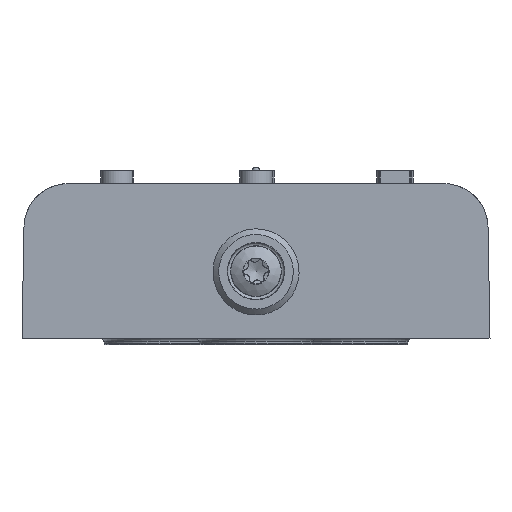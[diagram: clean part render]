
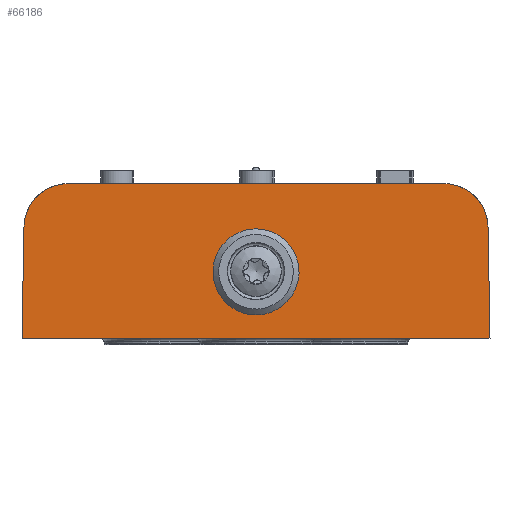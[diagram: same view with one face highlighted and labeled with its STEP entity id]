
A CAD part, front view. The second image highlights one B-rep face of the part: STEP entity #66186.
In plain terms, the highlighted planar face has unit normal (0, -1, 0).
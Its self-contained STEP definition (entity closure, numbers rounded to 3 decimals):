
#2045=ELLIPSE('',#77267,7.,7.);
#2046=ELLIPSE('',#77269,7.,7.);
#2418=B_SPLINE_CURVE_WITH_KNOTS('',3,(#105220,#105221,#105222,#105223,#105224,
#105225,#105226,#105227,#105228,#105229,#105230),.UNSPECIFIED.,.T.,.F.,
(1,1,1,1,1,1,1,1,1,1,1,1,1,1,1),(-0.016,-0.011,
-0.005,0.,0.005,0.011,
0.016,0.021,0.027,0.032,
0.037,0.043,0.048,0.053,
0.059),.UNSPECIFIED.);
#3788=LINE('',#106371,#10686);
#3789=LINE('',#106373,#10687);
#3790=LINE('',#106375,#10688);
#3791=LINE('',#106377,#10689);
#10686=VECTOR('',#85523,1000.);
#10687=VECTOR('',#85526,1000.);
#10688=VECTOR('',#85527,1000.);
#10689=VECTOR('',#85528,1000.);
#18724=ORIENTED_EDGE('',*,*,#37731,.T.);
#18725=ORIENTED_EDGE('',*,*,#38207,.T.);
#18726=ORIENTED_EDGE('',*,*,#38209,.T.);
#18727=ORIENTED_EDGE('',*,*,#38205,.T.);
#18728=ORIENTED_EDGE('',*,*,#38210,.T.);
#18729=ORIENTED_EDGE('',*,*,#38211,.F.);
#18730=ORIENTED_EDGE('',*,*,#38212,.F.);
#37731=EDGE_CURVE('',#47548,#47548,#2418,.T.);
#38205=EDGE_CURVE('',#47904,#47905,#2045,.T.);
#38207=EDGE_CURVE('',#47907,#47906,#2046,.T.);
#38209=EDGE_CURVE('',#47906,#47904,#3788,.T.);
#38210=EDGE_CURVE('',#47905,#47908,#3789,.T.);
#38211=EDGE_CURVE('',#47909,#47908,#3790,.T.);
#38212=EDGE_CURVE('',#47907,#47909,#3791,.T.);
#47548=VERTEX_POINT('',#105231);
#47904=VERTEX_POINT('',#106360);
#47905=VERTEX_POINT('',#106362);
#47906=VERTEX_POINT('',#106366);
#47907=VERTEX_POINT('',#106368);
#47908=VERTEX_POINT('',#106374);
#47909=VERTEX_POINT('',#106376);
#55773=EDGE_LOOP('',(#18724));
#55774=EDGE_LOOP('',(#18725,#18726,#18727,#18728,#18729,#18730));
#59925=FACE_BOUND('',#55773,.T.);
#59926=FACE_BOUND('',#55774,.T.);
#63843=PLANE('',#77271);
#66186=ADVANCED_FACE('',(#59925,#59926),#63843,.T.);
#77267=AXIS2_PLACEMENT_3D('',#106363,#85513,#85514);
#77269=AXIS2_PLACEMENT_3D('',#106367,#85518,#85519);
#77271=AXIS2_PLACEMENT_3D('',#106372,#85524,#85525);
#85513=DIRECTION('',(0.,-1.,0.));
#85514=DIRECTION('',(0.,0.,1.));
#85518=DIRECTION('',(0.,-1.,0.));
#85519=DIRECTION('',(0.,0.,-1.));
#85523=DIRECTION('',(-1.,0.,0.));
#85524=DIRECTION('',(0.,-1.,0.));
#85525=DIRECTION('',(0.,0.,-1.));
#85526=DIRECTION('',(-0.017,0.,-1.));
#85527=DIRECTION('',(-1.,0.,0.));
#85528=DIRECTION('',(0.017,0.,-1.));
#105220=CARTESIAN_POINT('',(5.347,-67.518,4.195));
#105221=CARTESIAN_POINT('',(0.001,-67.518,1.975));
#105222=CARTESIAN_POINT('',(-5.341,-67.518,4.193));
#105223=CARTESIAN_POINT('',(-7.551,-67.518,9.522));
#105224=CARTESIAN_POINT('',(-5.345,-67.518,14.87));
#105225=CARTESIAN_POINT('',(-0.001,-67.518,17.083));
#105226=CARTESIAN_POINT('',(5.331,-67.518,14.879));
#105227=CARTESIAN_POINT('',(7.553,-67.518,9.542));
#105228=CARTESIAN_POINT('',(5.347,-67.518,4.195));
#105229=CARTESIAN_POINT('',(0.001,-67.518,1.975));
#105230=CARTESIAN_POINT('',(-5.341,-67.518,4.193));
#105231=CARTESIAN_POINT('',(0.001,-67.518,2.715));
#106360=CARTESIAN_POINT('',(-29.711,-67.518,23.5));
#106362=CARTESIAN_POINT('',(-36.71,-67.518,16.622));
#106363=CARTESIAN_POINT('',(-29.711,-67.518,16.5));
#106366=CARTESIAN_POINT('',(29.711,-67.518,23.5));
#106367=CARTESIAN_POINT('',(29.711,-67.518,16.5));
#106368=CARTESIAN_POINT('',(36.71,-67.518,16.622));
#106371=CARTESIAN_POINT('',(0.,-67.518,23.5));
#106372=CARTESIAN_POINT('',(0.,-67.517,-1.));
#106373=CARTESIAN_POINT('',(-37.006,-67.517,-0.354));
#106374=CARTESIAN_POINT('',(-37.017,-67.517,-1.));
#106375=CARTESIAN_POINT('',(0.,-67.517,-1.));
#106376=CARTESIAN_POINT('',(37.017,-67.517,-1.));
#106377=CARTESIAN_POINT('',(37.,-67.517,-0.001));
